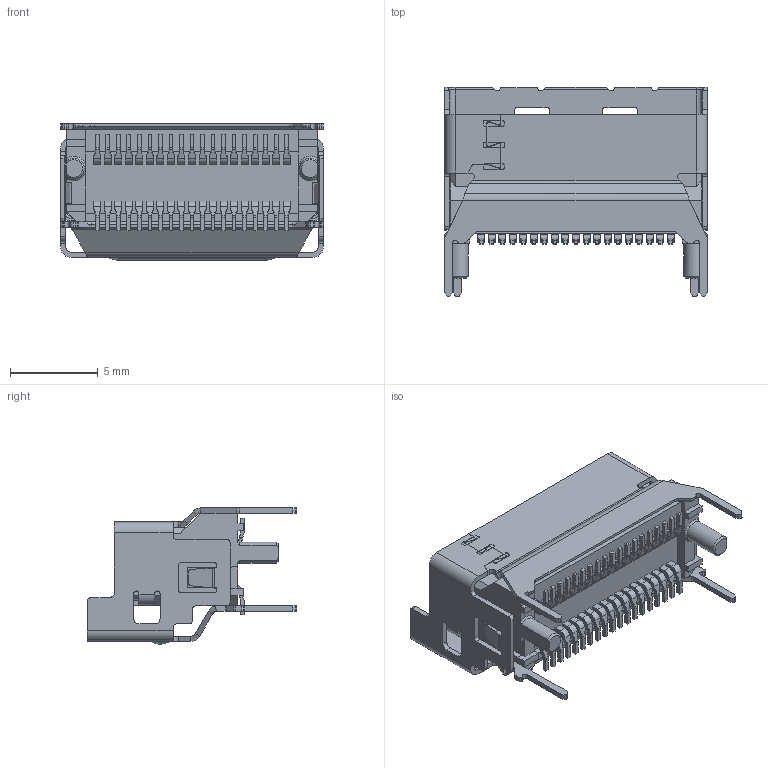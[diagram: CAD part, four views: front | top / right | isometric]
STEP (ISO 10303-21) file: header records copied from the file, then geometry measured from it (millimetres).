
FILE_DESCRIPTION((''),'2;1');
FILE_NAME('02V232X10H0000','2024-05-16T22:31:48',('ZL'),(''),'CREO PARAMETRIC BY PTC INC, 2020053','CREO PARAMETRIC BY PTC INC, 2020053','');
FILE_SCHEMA(('AUTOMOTIVE_DESIGN { 1 0 10303 214 1 1 1 1 }'));
Products named in the file (1): 02V232X10H0000
Bounding box: 15 x 11.95 x 7.77 mm (x, y, z)
Volume: 431.9 mm3; surface area: 1314.2 mm2
Topology: 1 solids, 1 shells, 2389 faces, 6848 edges, 4494 vertices
Faces by surface type: plane 1372, cylinder 913, torus 78, cone 14, bspline 12
Entity records: 80202 total; most frequent: CARTESIAN_POINT 15518, ORIENTED_EDGE 13696, DIRECTION 13264, EDGE_CURVE 6848, VECTOR 4761, LINE 4761, VERTEX_POINT 4494, AXIS2_PLACEMENT_3D 4250
